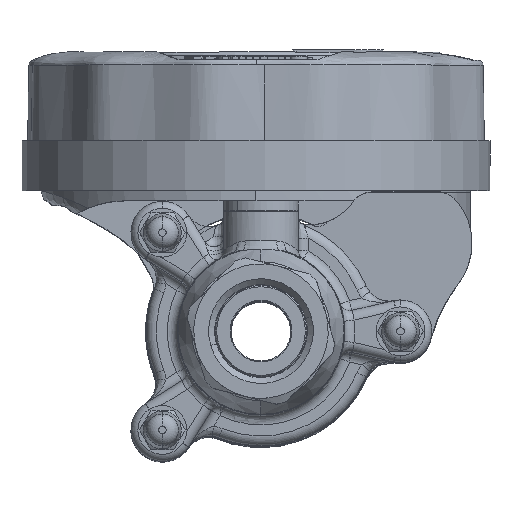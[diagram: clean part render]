
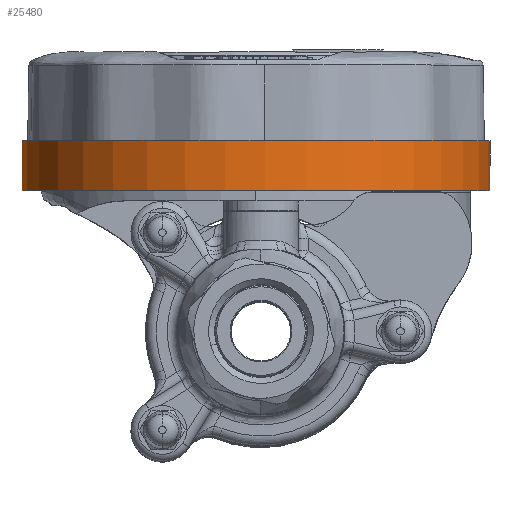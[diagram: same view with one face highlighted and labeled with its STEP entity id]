
A CAD part, top view. The second image highlights one B-rep face of the part: STEP entity #25480.
In plain terms, the highlighted cylindrical face has radius 47 mm (diameter 94 mm), a partial arc.
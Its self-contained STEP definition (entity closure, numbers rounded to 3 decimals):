
#556 = EDGE_CURVE ( 'NONE', #48525, #22854, #19505, .T. ) ;
#985 = LINE ( 'NONE', #7249, #15967 ) ;
#3501 = LINE ( 'NONE', #52931, #21850 ) ;
#3747 = EDGE_CURVE ( 'NONE', #48726, #26751, #49416, .T. ) ;
#4635 = DIRECTION ( 'NONE',  ( 0., -1., 0. ) ) ;
#6336 = CARTESIAN_POINT ( 'NONE',  ( 45.963, 38.3, 7.235 ) ) ;
#7081 = FACE_OUTER_BOUND ( 'NONE', #37378, .T. ) ;
#7249 = CARTESIAN_POINT ( 'NONE',  ( -47.963, 38.3, 10.965 ) ) ;
#7569 = CYLINDRICAL_SURFACE ( 'NONE', #11521, 47. ) ;
#11521 = AXIS2_PLACEMENT_3D ( 'NONE', #14568, #16221, #48356 ) ;
#14568 = CARTESIAN_POINT ( 'NONE',  ( -1., 38.3, 9.1 ) ) ;
#15967 = VECTOR ( 'NONE', #38923, 1000. ) ;
#16221 = DIRECTION ( 'NONE',  ( 0., -1., 0. ) ) ;
#18583 = CARTESIAN_POINT ( 'NONE',  ( -47.963, 28.3, 10.965 ) ) ;
#19505 = CIRCLE ( 'NONE', #28234, 47. ) ;
#19702 = EDGE_CURVE ( 'NONE', #48525, #48726, #3501, .T. ) ;
#21850 = VECTOR ( 'NONE', #38558, 1000. ) ;
#22854 = VERTEX_POINT ( 'NONE', #37408 ) ;
#23020 = AXIS2_PLACEMENT_3D ( 'NONE', #36203, #4635, #31648 ) ;
#24488 = ORIENTED_EDGE ( 'NONE', *, *, #3747, .F. ) ;
#25480 = ADVANCED_FACE ( 'NONE', ( #7081 ), #7569, .T. ) ;
#25608 = ORIENTED_EDGE ( 'NONE', *, *, #556, .T. ) ;
#26751 = VERTEX_POINT ( 'NONE', #18583 ) ;
#28234 = AXIS2_PLACEMENT_3D ( 'NONE', #46884, #37870, #42389 ) ;
#31648 = DIRECTION ( 'NONE',  ( -0.999, 0., 0.04 ) ) ;
#36203 = CARTESIAN_POINT ( 'NONE',  ( -1., 28.3, 9.1 ) ) ;
#37378 = EDGE_LOOP ( 'NONE', ( #51269, #25608, #40554, #24488 ) ) ;
#37408 = CARTESIAN_POINT ( 'NONE',  ( -47.963, 38.3, 10.965 ) ) ;
#37870 = DIRECTION ( 'NONE',  ( 0., -1., 0. ) ) ;
#38558 = DIRECTION ( 'NONE',  ( 0., -1., 0. ) ) ;
#38923 = DIRECTION ( 'NONE',  ( 0., -1., 0. ) ) ;
#40554 = ORIENTED_EDGE ( 'NONE', *, *, #54662, .T. ) ;
#42389 = DIRECTION ( 'NONE',  ( -0.999, 0., 0.04 ) ) ;
#46884 = CARTESIAN_POINT ( 'NONE',  ( -1., 38.3, 9.1 ) ) ;
#48356 = DIRECTION ( 'NONE',  ( -0.999, 0., 0.04 ) ) ;
#48525 = VERTEX_POINT ( 'NONE', #6336 ) ;
#48726 = VERTEX_POINT ( 'NONE', #56871 ) ;
#49416 = CIRCLE ( 'NONE', #23020, 47. ) ;
#51269 = ORIENTED_EDGE ( 'NONE', *, *, #19702, .F. ) ;
#52931 = CARTESIAN_POINT ( 'NONE',  ( 45.963, 38.3, 7.235 ) ) ;
#54662 = EDGE_CURVE ( 'NONE', #22854, #26751, #985, .T. ) ;
#56871 = CARTESIAN_POINT ( 'NONE',  ( 45.963, 28.3, 7.235 ) ) ;
